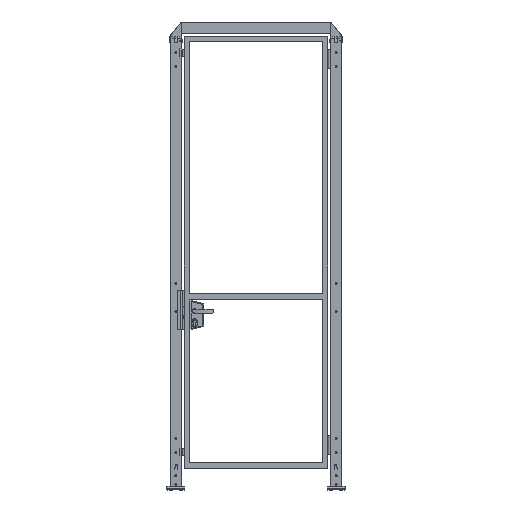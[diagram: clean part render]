
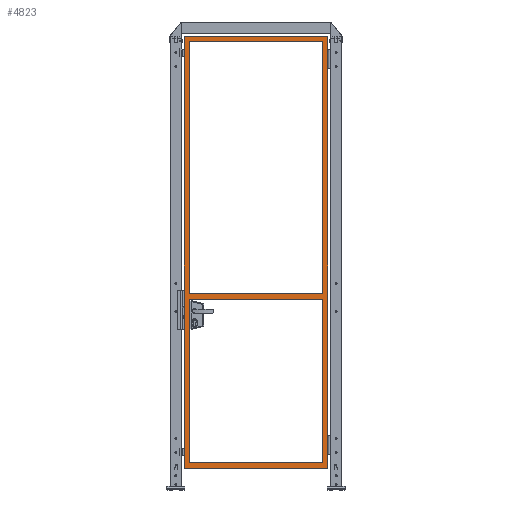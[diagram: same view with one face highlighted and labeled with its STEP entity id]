
A CAD part, top view. The second image highlights one B-rep face of the part: STEP entity #4823.
In plain terms, the highlighted planar face has unit normal (0, 0, 1).
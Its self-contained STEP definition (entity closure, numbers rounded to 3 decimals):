
#4823=ADVANCED_FACE('',(#9878,#9879,#9880),#9881,.F.);
#9878=FACE_BOUND('',#17852,.T.);
#9879=FACE_OUTER_BOUND('',#17853,.T.);
#9880=FACE_BOUND('',#17854,.T.);
#9881=PLANE('',#17855);
#17852=EDGE_LOOP('',(#32088,#32089,#32090,#32091));
#17853=EDGE_LOOP('',(#32092,#32093,#32094,#32095));
#17854=EDGE_LOOP('',(#32096,#32097,#32098,#32099));
#17855=AXIS2_PLACEMENT_3D('',#32100,#32101,#32102);
#32088=ORIENTED_EDGE('',*,*,#37969,.F.);
#32089=ORIENTED_EDGE('',*,*,#37975,.T.);
#32090=ORIENTED_EDGE('',*,*,#37997,.T.);
#32091=ORIENTED_EDGE('',*,*,#38002,.F.);
#32092=ORIENTED_EDGE('',*,*,#38013,.F.);
#32093=ORIENTED_EDGE('',*,*,#38007,.F.);
#32094=ORIENTED_EDGE('',*,*,#37977,.F.);
#32095=ORIENTED_EDGE('',*,*,#38011,.F.);
#32096=ORIENTED_EDGE('',*,*,#37999,.F.);
#32097=ORIENTED_EDGE('',*,*,#37994,.F.);
#32098=ORIENTED_EDGE('',*,*,#38005,.T.);
#32099=ORIENTED_EDGE('',*,*,#38014,.T.);
#32100=CARTESIAN_POINT('',(415.0,135.0,15.0));
#32101=DIRECTION('',(0.,0.0,-1.0));
#32102=DIRECTION('',(-1.0,0.0,0.));
#37969=EDGE_CURVE('',#46828,#46831,#46832,.T.);
#37975=EDGE_CURVE('',#46828,#46839,#46841,.T.);
#37977=EDGE_CURVE('',#46843,#46844,#46845,.T.);
#37994=EDGE_CURVE('',#46871,#46869,#46873,.T.);
#37997=EDGE_CURVE('',#46839,#46875,#46877,.T.);
#37999=EDGE_CURVE('',#46869,#46879,#46880,.T.);
#38002=EDGE_CURVE('',#46831,#46875,#46883,.T.);
#38005=EDGE_CURVE('',#46871,#46885,#46887,.T.);
#38007=EDGE_CURVE('',#46844,#46889,#46890,.T.);
#38011=EDGE_CURVE('',#46893,#46843,#46895,.T.);
#38013=EDGE_CURVE('',#46889,#46893,#46897,.T.);
#38014=EDGE_CURVE('',#46885,#46879,#46898,.T.);
#46828=VERTEX_POINT('',#60680);
#46831=VERTEX_POINT('',#60684);
#46832=LINE('',#60685,#60686);
#46839=VERTEX_POINT('',#60696);
#46841=LINE('',#60699,#60700);
#46843=VERTEX_POINT('',#60702);
#46844=VERTEX_POINT('',#60703);
#46845=LINE('',#60704,#60705);
#46869=VERTEX_POINT('',#60741);
#46871=VERTEX_POINT('',#60744);
#46873=LINE('',#60747,#60748);
#46875=VERTEX_POINT('',#60750);
#46877=LINE('',#60753,#60754);
#46879=VERTEX_POINT('',#60756);
#46880=LINE('',#60757,#60758);
#46883=LINE('',#60762,#60763);
#46885=VERTEX_POINT('',#60765);
#46887=LINE('',#60768,#60769);
#46889=VERTEX_POINT('',#60771);
#46890=LINE('',#60772,#60773);
#46893=VERTEX_POINT('',#60777);
#46895=LINE('',#60780,#60781);
#46897=LINE('',#60783,#60784);
#46898=LINE('',#60785,#60786);
#60680=CARTESIAN_POINT('',(785.0,2490.0,15.0));
#60684=CARTESIAN_POINT('',(45.,2490.0,15.0));
#60685=CARTESIAN_POINT('',(415.0,2490.0,15.0));
#60686=VECTOR('',#67067,1.0);
#60696=CARTESIAN_POINT('',(785.0,1090.0,15.0));
#60699=CARTESIAN_POINT('',(785.0,1320.0,15.0));
#60700=VECTOR('',#67072,1.0);
#60702=CARTESIAN_POINT('',(15.0,120.0,15.0));
#60703=CARTESIAN_POINT('',(15.,2520.0,15.0));
#60704=CARTESIAN_POINT('',(15.0,135.0,15.0));
#60705=VECTOR('',#67073,1.0);
#60741=CARTESIAN_POINT('',(45.,1060.0,15.0));
#60744=CARTESIAN_POINT('',(785.0,1060.0,15.0));
#60747=CARTESIAN_POINT('',(415.0,1060.0,15.0));
#60748=VECTOR('',#67088,1.0);
#60750=CARTESIAN_POINT('',(45.,1090.0,15.0));
#60753=CARTESIAN_POINT('',(415.0,1090.0,15.0));
#60754=VECTOR('',#67090,1.0);
#60756=CARTESIAN_POINT('',(45.0,150.0,15.0));
#60757=CARTESIAN_POINT('',(45.,1320.0,15.0));
#60758=VECTOR('',#67091,1.0);
#60762=CARTESIAN_POINT('',(45.,1320.0,15.0));
#60763=VECTOR('',#67093,1.0);
#60765=CARTESIAN_POINT('',(785.0,150.0,15.0));
#60768=CARTESIAN_POINT('',(785.0,1320.0,15.0));
#60769=VECTOR('',#67095,1.0);
#60771=CARTESIAN_POINT('',(815.0,2520.0,15.0));
#60772=CARTESIAN_POINT('',(30.,2520.0,15.0));
#60773=VECTOR('',#67096,1.0);
#60777=CARTESIAN_POINT('',(815.0,120.0,15.0));
#60780=CARTESIAN_POINT('',(415.0,120.0,15.0));
#60781=VECTOR('',#67099,1.0);
#60783=CARTESIAN_POINT('',(815.0,1320.0,15.0));
#60784=VECTOR('',#67100,1.0);
#60785=CARTESIAN_POINT('',(415.0,150.0,15.0));
#60786=VECTOR('',#67101,1.0);
#67067=DIRECTION('',(-1.0,0.0,0.));
#67072=DIRECTION('',(0.,-1.0,0.));
#67073=DIRECTION('',(0.0,1.0,0.0));
#67088=DIRECTION('',(-1.0,0.0,0.));
#67090=DIRECTION('',(-1.0,0.0,0.));
#67091=DIRECTION('',(0.,-1.0,0.));
#67093=DIRECTION('',(0.,-1.0,0.));
#67095=DIRECTION('',(0.,-1.0,0.));
#67096=DIRECTION('',(1.0,0.,0.));
#67099=DIRECTION('',(-1.0,0.0,0.));
#67100=DIRECTION('',(0.,-1.0,0.));
#67101=DIRECTION('',(-1.0,0.0,0.));
